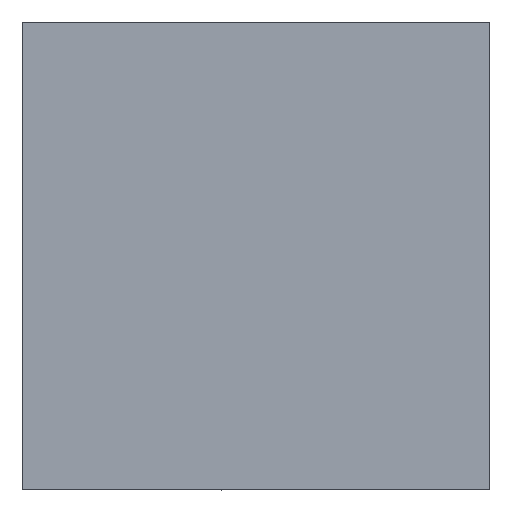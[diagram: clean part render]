
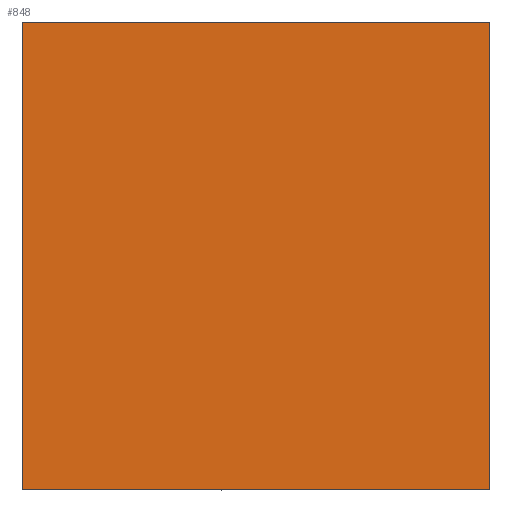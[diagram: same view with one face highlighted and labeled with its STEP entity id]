
A CAD part, front view. The second image highlights one B-rep face of the part: STEP entity #848.
In plain terms, the highlighted planar face has unit normal (0, -1, 0).
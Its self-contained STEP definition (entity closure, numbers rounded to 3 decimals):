
#365=CARTESIAN_POINT('Vertex',(-25.,0.,25.)) ;
#368=CARTESIAN_POINT('Line Origine',(0.,0.,25.)) ;
#372=CARTESIAN_POINT('Vertex',(25.,0.,25.)) ;
#398=CARTESIAN_POINT('Vertex',(25.,0.,-25.)) ;
#401=CARTESIAN_POINT('Line Origine',(25.,0.,0.)) ;
#587=CARTESIAN_POINT('Vertex',(-25.,0.,-25.)) ;
#590=CARTESIAN_POINT('Line Origine',(0.,0.,-25.)) ;
#756=CARTESIAN_POINT('Line Origine',(-25.,0.,0.)) ;
#837=CARTESIAN_POINT('Axis2P3D Location',(0.,0.,-0.)) ;
#369=DIRECTION('Vector Direction',(1.,0.,0.)) ;
#402=DIRECTION('Vector Direction',(0.,0.,-1.)) ;
#591=DIRECTION('Vector Direction',(-1.,0.,0.)) ;
#757=DIRECTION('Vector Direction',(0.,0.,1.)) ;
#838=DIRECTION('Axis2P3D Direction',(0.,1.,-0.)) ;
#839=DIRECTION('Axis2P3D XDirection',(0.,0.,1.)) ;
#840=AXIS2_PLACEMENT_3D('Plane Axis2P3D',#837,#838,#839) ;
#843=ORIENTED_EDGE('',*,*,#594,.F.) ;
#844=ORIENTED_EDGE('',*,*,#405,.F.) ;
#845=ORIENTED_EDGE('',*,*,#374,.F.) ;
#846=ORIENTED_EDGE('',*,*,#760,.F.) ;
#370=VECTOR('Line Direction',#369,1.) ;
#403=VECTOR('Line Direction',#402,1.) ;
#592=VECTOR('Line Direction',#591,1.) ;
#758=VECTOR('Line Direction',#757,1.) ;
#848=ADVANCED_FACE('395V-04-050-140',(#847),#841,.F.) ;
#374=EDGE_CURVE('',#366,#373,#371,.T.) ;
#405=EDGE_CURVE('',#373,#399,#404,.T.) ;
#594=EDGE_CURVE('',#399,#588,#593,.T.) ;
#760=EDGE_CURVE('',#588,#366,#759,.T.) ;
#842=EDGE_LOOP('',(#843,#844,#845,#846)) ;
#847=FACE_OUTER_BOUND('',#842,.T.) ;
#371=LINE('Line',#368,#370) ;
#404=LINE('Line',#401,#403) ;
#593=LINE('Line',#590,#592) ;
#759=LINE('Line',#756,#758) ;
#841=PLANE('Plane',#840) ;
#366=VERTEX_POINT('',#365) ;
#373=VERTEX_POINT('',#372) ;
#399=VERTEX_POINT('',#398) ;
#588=VERTEX_POINT('',#587) ;
